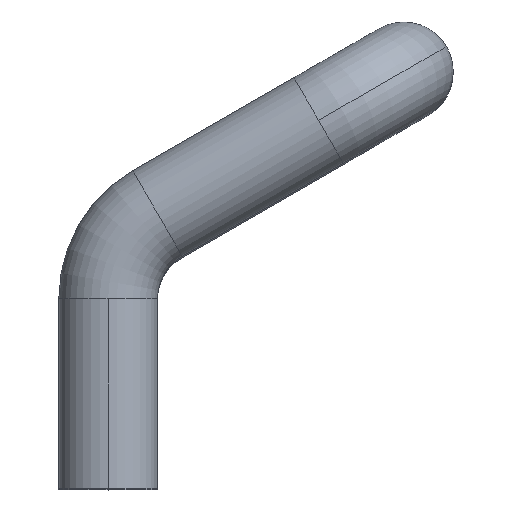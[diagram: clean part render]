
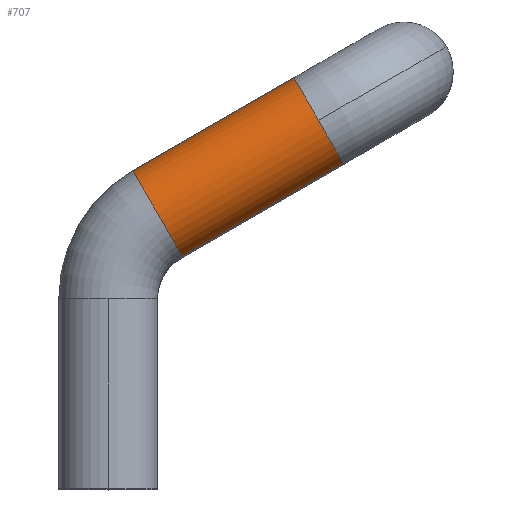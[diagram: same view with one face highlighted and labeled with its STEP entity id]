
A CAD part, top view. The second image highlights one B-rep face of the part: STEP entity #707.
In plain terms, the highlighted cylindrical face has radius 5 mm (diameter 10 mm), a partial arc.
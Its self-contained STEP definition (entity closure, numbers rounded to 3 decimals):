
#2 = VERTEX_POINT ( 'NONE', #712 ) ;
#4 = VERTEX_POINT ( 'NONE', #97 ) ;
#8 = CARTESIAN_POINT ( 'NONE',  ( 7.5, 23.557, 0. ) ) ;
#12 = VERTEX_POINT ( 'NONE', #369 ) ;
#26 = CARTESIAN_POINT ( 'NONE',  ( 2.5, 32.217, 0. ) ) ;
#45 = CARTESIAN_POINT ( 'NONE',  ( 23.84, 32.99, 0. ) ) ;
#69 = DIRECTION ( 'NONE',  ( 0.866, 0.5, 0. ) ) ;
#73 = CARTESIAN_POINT ( 'NONE',  ( 5., 27.887, 0. ) ) ;
#76 = ORIENTED_EDGE ( 'NONE', *, *, #436, .F. ) ;
#86 = ORIENTED_EDGE ( 'NONE', *, *, #752, .T. ) ;
#94 = VECTOR ( 'NONE', #690, 1000. ) ;
#97 = CARTESIAN_POINT ( 'NONE',  ( 18.84, 41.651, 0. ) ) ;
#108 = CARTESIAN_POINT ( 'NONE',  ( 7.5, 23.557, 0. ) ) ;
#129 = DIRECTION ( 'NONE',  ( 0., 0., 1. ) ) ;
#142 = CIRCLE ( 'NONE', #824, 5. ) ;
#164 = VERTEX_POINT ( 'NONE', #108 ) ;
#197 = AXIS2_PLACEMENT_3D ( 'NONE', #73, #276, #473 ) ;
#202 = CYLINDRICAL_SURFACE ( 'NONE', #197, 5. ) ;
#276 = DIRECTION ( 'NONE',  ( 0.866, 0.5, 0. ) ) ;
#284 = EDGE_LOOP ( 'NONE', ( #86, #332, #419, #76, #352 ) ) ;
#293 = EDGE_CURVE ( 'NONE', #164, #833, #356, .T. ) ;
#332 = ORIENTED_EDGE ( 'NONE', *, *, #293, .T. ) ;
#344 = DIRECTION ( 'NONE',  ( 0., 0., 1. ) ) ;
#352 = ORIENTED_EDGE ( 'NONE', *, *, #392, .F. ) ;
#356 = LINE ( 'NONE', #8, #94 ) ;
#368 = DIRECTION ( 'NONE',  ( 0.866, 0.5, 0. ) ) ;
#369 = CARTESIAN_POINT ( 'NONE',  ( 2.5, 32.217, 0. ) ) ;
#376 = LINE ( 'NONE', #26, #827 ) ;
#392 = EDGE_CURVE ( 'NONE', #12, #4, #376, .T. ) ;
#403 = CARTESIAN_POINT ( 'NONE',  ( 21.34, 37.321, 0. ) ) ;
#419 = ORIENTED_EDGE ( 'NONE', *, *, #688, .F. ) ;
#436 = EDGE_CURVE ( 'NONE', #4, #2, #576, .T. ) ;
#452 = AXIS2_PLACEMENT_3D ( 'NONE', #403, #69, #344 ) ;
#473 = DIRECTION ( 'NONE',  ( -0.5, 0.866, 0. ) ) ;
#487 = FACE_OUTER_BOUND ( 'NONE', #284, .T. ) ;
#555 = CARTESIAN_POINT ( 'NONE',  ( 5., 27.887, 0. ) ) ;
#576 = CIRCLE ( 'NONE', #791, 5. ) ;
#634 = DIRECTION ( 'NONE',  ( 0., 0., 1. ) ) ;
#688 = EDGE_CURVE ( 'NONE', #2, #833, #880, .T. ) ;
#690 = DIRECTION ( 'NONE',  ( 0.866, 0.5, 0. ) ) ;
#705 = CARTESIAN_POINT ( 'NONE',  ( 21.34, 37.321, 0. ) ) ;
#707 = ADVANCED_FACE ( 'NONE', ( #487 ), #202, .T. ) ;
#712 = CARTESIAN_POINT ( 'NONE',  ( 21.34, 37.321, 5. ) ) ;
#752 = EDGE_CURVE ( 'NONE', #12, #164, #142, .T. ) ;
#768 = DIRECTION ( 'NONE',  ( 0.866, 0.5, 0. ) ) ;
#791 = AXIS2_PLACEMENT_3D ( 'NONE', #705, #368, #634 ) ;
#824 = AXIS2_PLACEMENT_3D ( 'NONE', #555, #829, #129 ) ;
#827 = VECTOR ( 'NONE', #768, 1000. ) ;
#829 = DIRECTION ( 'NONE',  ( 0.866, 0.5, 0. ) ) ;
#833 = VERTEX_POINT ( 'NONE', #45 ) ;
#880 = CIRCLE ( 'NONE', #452, 5. ) ;
